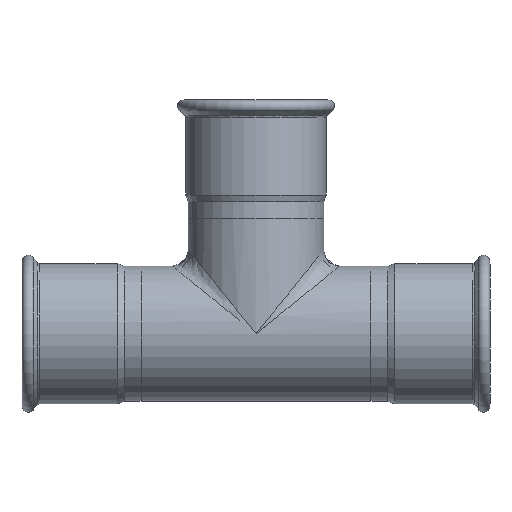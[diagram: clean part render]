
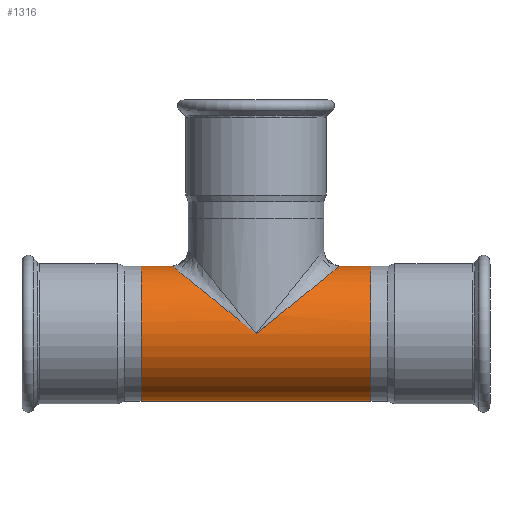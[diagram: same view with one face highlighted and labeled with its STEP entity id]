
A CAD part, front view. The second image highlights one B-rep face of the part: STEP entity #1316.
In plain terms, the highlighted cylindrical face has radius 84.15 mm (diameter 168.3 mm), a full revolution.
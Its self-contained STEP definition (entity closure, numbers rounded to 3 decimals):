
#951=CARTESIAN_POINT('',(0.,84.15,0.0));
#952=VERTEX_POINT('',#951);
#953=CARTESIAN_POINT('',(0.,-84.15,0.0));
#954=VERTEX_POINT('',#953);
#955=CARTESIAN_POINT('',(0.0,0.,0.0));
#956=DIRECTION('',(0.628,0.,0.778));
#957=DIRECTION('',(-0.778,0.,0.628));
#958=AXIS2_PLACEMENT_3D('',#955,#956,#957);
#959=ELLIPSE('',#958,133.897,84.15);
#960=EDGE_CURVE('',#952,#954,#959,.T.);
#1223=CARTESIAN_POINT('',(0.0,0.,0.0));
#1224=DIRECTION('',(-0.628,0.,0.778));
#1225=DIRECTION('',(0.778,0.,0.628));
#1226=AXIS2_PLACEMENT_3D('',#1223,#1224,#1225);
#1227=ELLIPSE('',#1226,133.897,84.15);
#1228=EDGE_CURVE('',#954,#952,#1227,.T.);
#1278=CARTESIAN_POINT('',(-143.0,84.15,0.0));
#1279=VERTEX_POINT('',#1278);
#1280=CARTESIAN_POINT('',(-143.0,0.0,0.0));
#1281=DIRECTION('',(1.0,0.0,0.0));
#1282=DIRECTION('',(0.0,1.0,0.0));
#1283=AXIS2_PLACEMENT_3D('',#1280,#1281,#1282);
#1284=CIRCLE('',#1283,84.15);
#1285=EDGE_CURVE('',#1279,#1279,#1284,.T.);
#1293=CARTESIAN_POINT('',(0.0,0.,0.0));
#1294=DIRECTION('',(1.0,0.,0.0));
#1295=DIRECTION('',(0.0,1.0,0.0));
#1296=AXIS2_PLACEMENT_3D('',#1293,#1294,#1295);
#1297=CYLINDRICAL_SURFACE('',#1296,84.15);
#1298=CARTESIAN_POINT('',(143.,84.15,0.0));
#1299=VERTEX_POINT('',#1298);
#1300=CARTESIAN_POINT('',(143.0,0.,0.0));
#1301=DIRECTION('',(1.0,0.0,0.0));
#1302=DIRECTION('',(0.0,1.0,0.0));
#1303=AXIS2_PLACEMENT_3D('',#1300,#1301,#1302);
#1304=CIRCLE('',#1303,84.15);
#1305=EDGE_CURVE('',#1299,#1299,#1304,.T.);
#1306=ORIENTED_EDGE('',*,*,#1305,.F.);
#1307=EDGE_LOOP('',(#1306));
#1308=FACE_OUTER_BOUND('',#1307,.T.);
#1309=ORIENTED_EDGE('',*,*,#960,.F.);
#1310=ORIENTED_EDGE('',*,*,#1228,.F.);
#1311=EDGE_LOOP('',(#1309,#1310));
#1312=FACE_BOUND('',#1311,.T.);
#1313=ORIENTED_EDGE('',*,*,#1285,.T.);
#1314=EDGE_LOOP('',(#1313));
#1315=FACE_BOUND('',#1314,.T.);
#1316=ADVANCED_FACE('',(#1308,#1312,#1315),#1297,.T.);
